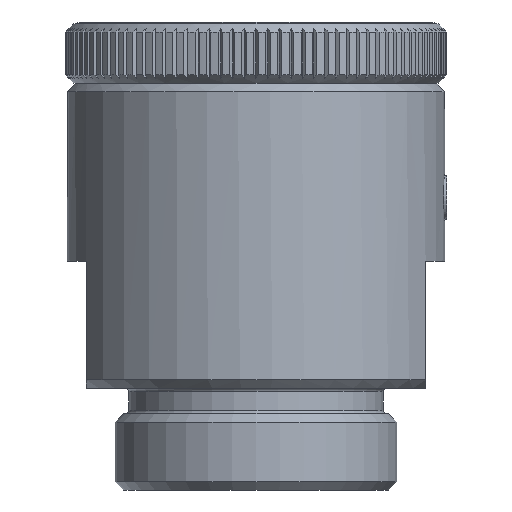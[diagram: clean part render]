
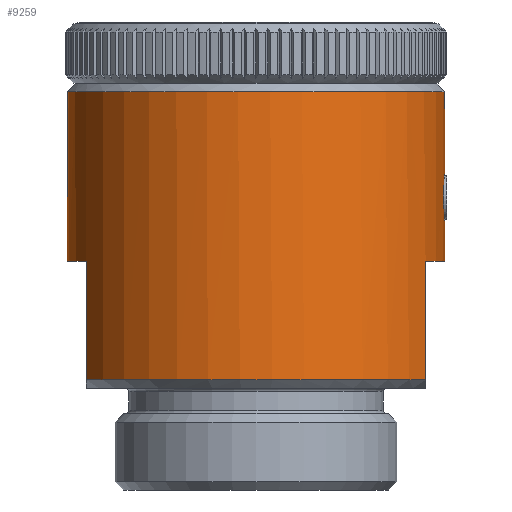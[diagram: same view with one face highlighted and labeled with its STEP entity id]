
A CAD part, left-side view. The second image highlights one B-rep face of the part: STEP entity #9259.
In plain terms, the highlighted cylindrical face has radius 22.25 mm (diameter 44.5 mm), a full revolution.
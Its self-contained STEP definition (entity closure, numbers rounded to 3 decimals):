
#145=B_SPLINE_CURVE_WITH_KNOTS('',3,(#15572,#15573,#15574,#15575,#15576,
#15577,#15578,#15579,#15580,#15581,#15582,#15583,#15584,#15585,#15586,#15587,
#15588,#15589,#15590),.UNSPECIFIED.,.F.,.F.,(4,2,2,2,3,2,2,2,4),(1.231,
1.335,1.438,1.54,1.642,1.744,
1.846,1.949,2.052),.UNSPECIFIED.);
#146=B_SPLINE_CURVE_WITH_KNOTS('',3,(#15591,#15592,#15593,#15594,#15595,
#15596,#15597,#15598,#15599,#15600,#15601,#15602,#15603,#15604,#15605,#15606,
#15607,#15608),.UNSPECIFIED.,.F.,.F.,(4,2,2,2,2,2,2,2,4),(0.41,
0.514,0.617,0.719,0.821,
0.923,1.025,1.128,1.231),
 .UNSPECIFIED.);
#571=FACE_BOUND('',#1388,.T.);
#572=FACE_BOUND('',#1389,.T.);
#799=FACE_OUTER_BOUND('',#1387,.T.);
#1387=EDGE_LOOP('',(#7045,#7046,#7047,#7048,#7049,#7050,#7051,#7052));
#1388=EDGE_LOOP('',(#7053,#7054));
#1389=EDGE_LOOP('',(#7055));
#2045=LINE('',#15566,#2648);
#2046=LINE('',#15567,#2649);
#2047=LINE('',#15568,#2650);
#2048=LINE('',#15569,#2651);
#2648=VECTOR('',#11715,10.);
#2649=VECTOR('',#11716,10.);
#2650=VECTOR('',#11717,10.);
#2651=VECTOR('',#11718,10.);
#3036=CIRCLE('',#9858,22.25);
#3039=CIRCLE('',#9863,22.25);
#3040=CIRCLE('',#9865,22.25);
#3041=CIRCLE('',#9867,22.25);
#3042=CIRCLE('',#9869,22.25);
#3997=VERTEX_POINT('',#15487);
#4002=VERTEX_POINT('',#15499);
#4003=VERTEX_POINT('',#15503);
#4004=VERTEX_POINT('',#15509);
#4005=VERTEX_POINT('',#15513);
#4006=VERTEX_POINT('',#15519);
#4007=VERTEX_POINT('',#15520);
#4008=VERTEX_POINT('',#15524);
#4009=VERTEX_POINT('',#15525);
#4022=VERTEX_POINT('',#15570);
#4023=VERTEX_POINT('',#15571);
#5117=EDGE_CURVE('',#3997,#3997,#3036,.T.);
#5123=EDGE_CURVE('',#4002,#4003,#3039,.T.);
#5127=EDGE_CURVE('',#4005,#4004,#3040,.T.);
#5128=EDGE_CURVE('',#4006,#4007,#3041,.T.);
#5130=EDGE_CURVE('',#4008,#4009,#3042,.T.);
#5144=EDGE_CURVE('',#4002,#4008,#2045,.T.);
#5145=EDGE_CURVE('',#4009,#4004,#2046,.T.);
#5146=EDGE_CURVE('',#4005,#4006,#2047,.T.);
#5147=EDGE_CURVE('',#4007,#4003,#2048,.T.);
#5148=EDGE_CURVE('',#4022,#4023,#145,.T.);
#5149=EDGE_CURVE('',#4023,#4022,#146,.T.);
#7045=ORIENTED_EDGE('',*,*,#5144,.T.);
#7046=ORIENTED_EDGE('',*,*,#5130,.T.);
#7047=ORIENTED_EDGE('',*,*,#5145,.T.);
#7048=ORIENTED_EDGE('',*,*,#5127,.F.);
#7049=ORIENTED_EDGE('',*,*,#5146,.T.);
#7050=ORIENTED_EDGE('',*,*,#5128,.T.);
#7051=ORIENTED_EDGE('',*,*,#5147,.T.);
#7052=ORIENTED_EDGE('',*,*,#5123,.F.);
#7053=ORIENTED_EDGE('',*,*,#5148,.T.);
#7054=ORIENTED_EDGE('',*,*,#5149,.T.);
#7055=ORIENTED_EDGE('',*,*,#5117,.F.);
#8947=CYLINDRICAL_SURFACE('',#9895,22.25);
#9259=ADVANCED_FACE('',(#799,#571,#572),#8947,.T.);
#9858=AXIS2_PLACEMENT_3D('',#15488,#11635,#11636);
#9863=AXIS2_PLACEMENT_3D('',#15504,#11647,#11648);
#9865=AXIS2_PLACEMENT_3D('',#15517,#11651,#11652);
#9867=AXIS2_PLACEMENT_3D('',#15521,#11655,#11656);
#9869=AXIS2_PLACEMENT_3D('',#15526,#11660,#11661);
#9895=AXIS2_PLACEMENT_3D('',#15565,#11713,#11714);
#11635=DIRECTION('center_axis',(0.,0.,1.));
#11636=DIRECTION('ref_axis',(-1.,0.,0.));
#11647=DIRECTION('center_axis',(0.,0.,-1.));
#11648=DIRECTION('ref_axis',(-1.,0.,0.));
#11651=DIRECTION('center_axis',(0.,0.,-1.));
#11652=DIRECTION('ref_axis',(-1.,0.,0.));
#11655=DIRECTION('center_axis',(0.,0.,1.));
#11656=DIRECTION('ref_axis',(-1.,0.,0.));
#11660=DIRECTION('center_axis',(0.,0.,1.));
#11661=DIRECTION('ref_axis',(-1.,0.,0.));
#11713=DIRECTION('center_axis',(0.,0.,1.));
#11714=DIRECTION('ref_axis',(-1.,0.,0.));
#11715=DIRECTION('',(0.,0.,1.));
#11716=DIRECTION('',(0.,0.,-1.));
#11717=DIRECTION('',(0.,0.,1.));
#11718=DIRECTION('',(0.,0.,-1.));
#15487=CARTESIAN_POINT('',(22.25,0.,35.));
#15488=CARTESIAN_POINT('Origin',(0.,0.,35.));
#15499=CARTESIAN_POINT('',(9.75,20.,1.));
#15503=CARTESIAN_POINT('',(9.75,-20.,1.));
#15504=CARTESIAN_POINT('Origin',(0.,0.,1.));
#15509=CARTESIAN_POINT('',(-9.75,20.,1.));
#15513=CARTESIAN_POINT('',(-9.75,-20.,1.));
#15517=CARTESIAN_POINT('Origin',(0.,0.,1.));
#15519=CARTESIAN_POINT('',(-9.75,-20.,15.));
#15520=CARTESIAN_POINT('',(9.75,-20.,15.));
#15521=CARTESIAN_POINT('Origin',(0.,0.,15.));
#15524=CARTESIAN_POINT('',(9.75,20.,15.));
#15525=CARTESIAN_POINT('',(-9.75,20.,15.));
#15526=CARTESIAN_POINT('Origin',(0.,0.,15.));
#15565=CARTESIAN_POINT('Origin',(0.,0.,0.));
#15566=CARTESIAN_POINT('',(9.75,20.,0.));
#15567=CARTESIAN_POINT('',(-9.75,20.,0.));
#15568=CARTESIAN_POINT('',(-9.75,-20.,0.));
#15569=CARTESIAN_POINT('',(9.75,-20.,0.));
#15570=CARTESIAN_POINT('',(0.,-22.25,19.7));
#15571=CARTESIAN_POINT('',(0.,-22.25,25.3));
#15572=CARTESIAN_POINT('Ctrl Pts',(0.,-22.25,19.7));
#15573=CARTESIAN_POINT('Ctrl Pts',(-0.344,-22.25,19.7));
#15574=CARTESIAN_POINT('Ctrl Pts',(-0.709,-22.241,
19.776));
#15575=CARTESIAN_POINT('Ctrl Pts',(-1.371,-22.21,20.077));
#15576=CARTESIAN_POINT('Ctrl Pts',(-1.669,-22.189,
20.302));
#15577=CARTESIAN_POINT('Ctrl Pts',(-2.129,-22.149,
20.807));
#15578=CARTESIAN_POINT('Ctrl Pts',(-2.324,-22.129,
21.119));
#15579=CARTESIAN_POINT('Ctrl Pts',(-2.58,-22.1,
21.796));
#15580=CARTESIAN_POINT('Ctrl Pts',(-2.643,-22.093,22.16));
#15581=CARTESIAN_POINT('Ctrl Pts',(-2.643,-22.093,22.5));
#15582=CARTESIAN_POINT('Ctrl Pts',(-2.643,-22.093,22.84));
#15583=CARTESIAN_POINT('Ctrl Pts',(-2.58,-22.1,
23.204));
#15584=CARTESIAN_POINT('Ctrl Pts',(-2.324,-22.129,
23.881));
#15585=CARTESIAN_POINT('Ctrl Pts',(-2.129,-22.149,
24.193));
#15586=CARTESIAN_POINT('Ctrl Pts',(-1.669,-22.189,
24.698));
#15587=CARTESIAN_POINT('Ctrl Pts',(-1.371,-22.21,24.923));
#15588=CARTESIAN_POINT('Ctrl Pts',(-0.709,-22.241,
25.224));
#15589=CARTESIAN_POINT('Ctrl Pts',(-0.344,-22.25,25.3));
#15590=CARTESIAN_POINT('Ctrl Pts',(0.,-22.25,25.3));
#15591=CARTESIAN_POINT('Ctrl Pts',(0.,-22.25,25.3));
#15592=CARTESIAN_POINT('Ctrl Pts',(0.344,-22.25,25.3));
#15593=CARTESIAN_POINT('Ctrl Pts',(0.709,-22.241,
25.224));
#15594=CARTESIAN_POINT('Ctrl Pts',(1.371,-22.21,24.923));
#15595=CARTESIAN_POINT('Ctrl Pts',(1.669,-22.189,24.698));
#15596=CARTESIAN_POINT('Ctrl Pts',(2.129,-22.149,24.193));
#15597=CARTESIAN_POINT('Ctrl Pts',(2.324,-22.129,23.881));
#15598=CARTESIAN_POINT('Ctrl Pts',(2.58,-22.1,23.204));
#15599=CARTESIAN_POINT('Ctrl Pts',(2.643,-22.093,22.84));
#15600=CARTESIAN_POINT('Ctrl Pts',(2.643,-22.093,22.16));
#15601=CARTESIAN_POINT('Ctrl Pts',(2.58,-22.1,21.796));
#15602=CARTESIAN_POINT('Ctrl Pts',(2.324,-22.129,21.119));
#15603=CARTESIAN_POINT('Ctrl Pts',(2.129,-22.149,20.807));
#15604=CARTESIAN_POINT('Ctrl Pts',(1.669,-22.189,20.302));
#15605=CARTESIAN_POINT('Ctrl Pts',(1.371,-22.21,20.077));
#15606=CARTESIAN_POINT('Ctrl Pts',(0.709,-22.241,
19.776));
#15607=CARTESIAN_POINT('Ctrl Pts',(0.344,-22.25,19.7));
#15608=CARTESIAN_POINT('Ctrl Pts',(0.,-22.25,19.7));
